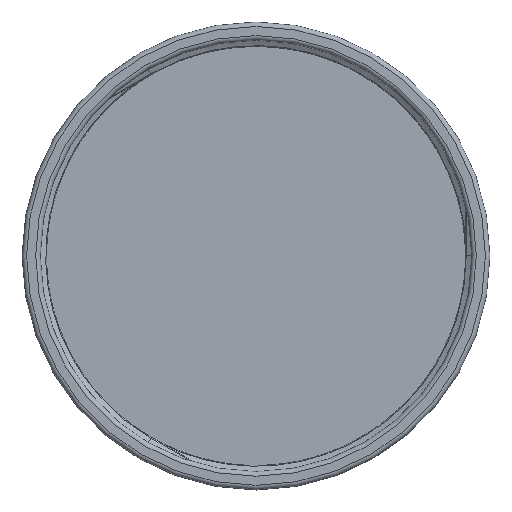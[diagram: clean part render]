
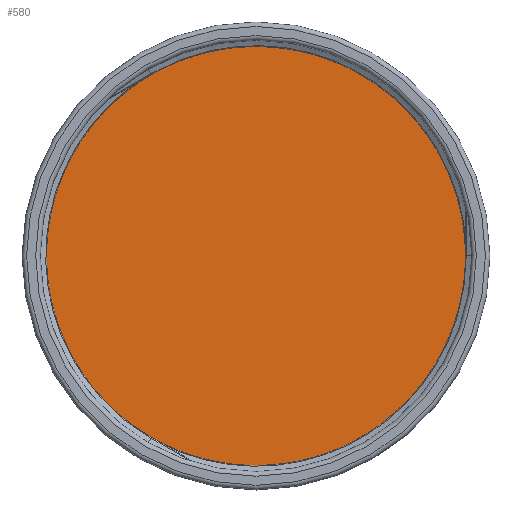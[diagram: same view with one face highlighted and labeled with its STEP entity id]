
A CAD part, top view. The second image highlights one B-rep face of the part: STEP entity #580.
In plain terms, the highlighted planar face has unit normal (0, 0, 1).
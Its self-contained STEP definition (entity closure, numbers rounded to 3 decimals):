
#150=PLANE('',#637);
#185=FACE_OUTER_BOUND('',#222,.T.);
#222=EDGE_LOOP('',(#542));
#228=CIRCLE('',#603,23.725);
#238=VERTEX_POINT('',#767);
#293=EDGE_CURVE('',#238,#238,#228,.T.);
#542=ORIENTED_EDGE('',*,*,#293,.T.);
#580=ADVANCED_FACE('',(#185),#150,.T.);
#603=AXIS2_PLACEMENT_3D('',#768,#656,#657);
#637=AXIS2_PLACEMENT_3D('',#2341,#752,#753);
#656=DIRECTION('center_axis',(0.,0.,1.));
#657=DIRECTION('ref_axis',(1.,0.,0.));
#752=DIRECTION('center_axis',(0.,0.,1.));
#753=DIRECTION('ref_axis',(1.,0.,0.));
#767=CARTESIAN_POINT('',(-23.725,0.,0.));
#768=CARTESIAN_POINT('Origin',(0.,0.,0.));
#2341=CARTESIAN_POINT('Origin',(0.,0.,0.));
